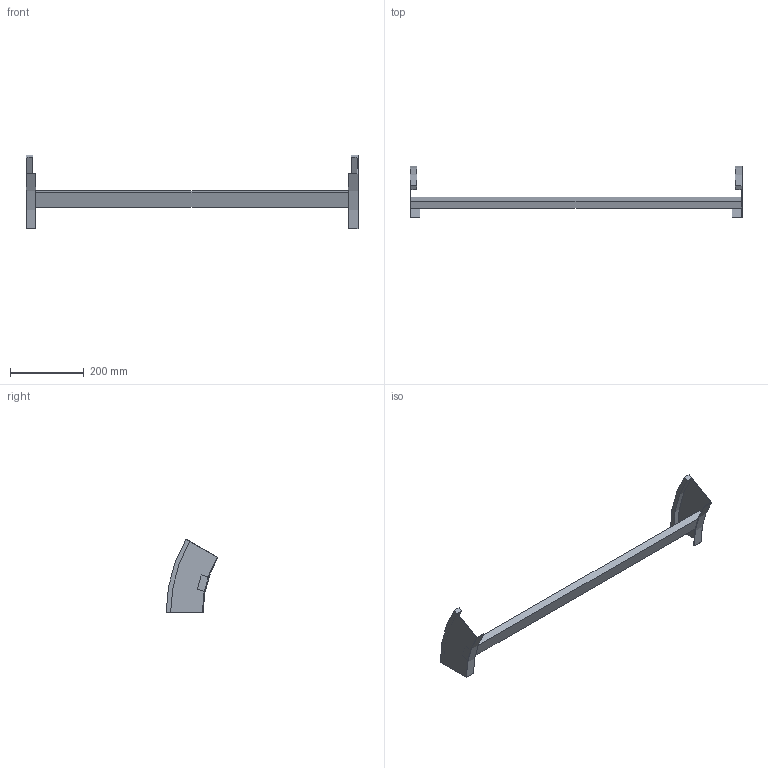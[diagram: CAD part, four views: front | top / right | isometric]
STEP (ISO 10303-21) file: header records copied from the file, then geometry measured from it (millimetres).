
FILE_DESCRIPTION (( 'STEP AP214' ), '1' );
FILE_NAME ('B2_35B3D900.step', '2025-02-21T14:47:08', ( '' ), ( '' ), 'SwSTEP 2.0', 'SolidWorks 2023', '' );
FILE_SCHEMA (( 'AUTOMOTIVE_DESIGN' ));
Length unit declared in the file: millimetre
Products named in the file (3): B2_LONGH.DISCESA_30°_H100_R300; TRAVERSINO_900; B2_35B3D900
Assembly tree (3 placements, depth 2):
  B2_35B3D900
    B2_LONGH.DISCESA_30°_H100_R300  x2
    TRAVERSINO_900
Bounding box: 900 x 140.19 x 200 mm (x, y, z)
Volume: 894042.6 mm3; surface area: 215537.3 mm2
Topology: 3 solids, 3 shells, 26 faces, 60 edges, 40 vertices
Faces by surface type: plane 18, cylinder 8
Entity records: 544 total; most frequent: DIRECTION 88, CARTESIAN_POINT 82, ORIENTED_EDGE 72, EDGE_CURVE 36, AXIS2_PLACEMENT_3D 30, LINE 28, VECTOR 28, VERTEX_POINT 24
